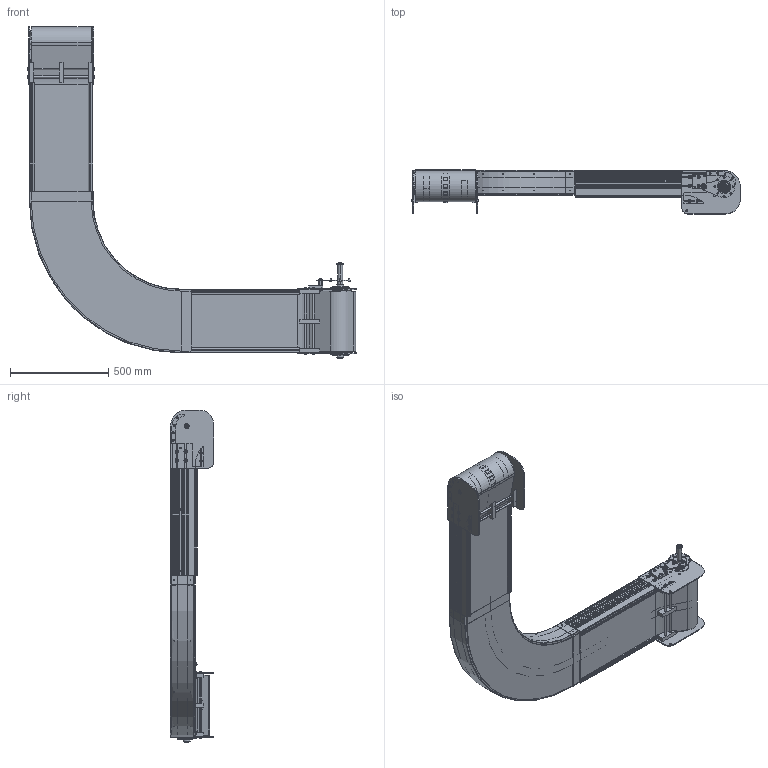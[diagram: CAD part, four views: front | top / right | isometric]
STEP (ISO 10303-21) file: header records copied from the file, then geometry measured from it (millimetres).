
FILE_DESCRIPTION (( 'STEP AP203' ), '1' );
FILE_NAME ('NASTRO_CATENA.step', '2026-04-20T10:51:47', ( 'Utente Windows' ), ( '' ), 'SwSTEP 2.0', 'SolidWorks 2024', '' );
FILE_SCHEMA (( 'CONFIG_CONTROL_DESIGN' ));
Length unit declared in the file: millimetre
Products named in the file (44): CATENA_LDX; 2000.1200.201-1; GRANI A PUNTA PIATTA UNI 5923 INOX_M8x20 UNI 5923 INOX; RONDELLE UNI 6592 INOX_6.4x12.5 UNI 6592 INOX; VITI TE UNI 5739 INOX_M6x12 UNI 5739 INOX; RUOTE DI TRAINO NS882_NS882T12R25; VITI TSEI UNI 5933 INOX_0820UNI5933A2; 2000.882.750; 2000.001.016; CHIAVETTE_A 8x7x70 UNI 6604-69; K1200_90°_S_P; K1200_DIR_49_P_DX_MOTORE A DESTRA; 2000.1200.104; VITI TCEI UNI 5931 INOX_M8x25 UNI 5931 INOX; K1200_TC_7_Default<A macchina>; 084.808.004; RONDELLE FASCIA LARGA UNI 6593 INOX_8.4x32 UNI 6593 INOX; NASTRO_CATENA; 2000.1200.492_MONTAGGIO; 2000.001.210; VITI TE UNI 5739 INOX_M6x20 UNI 5739 INOX; RONDELLE FASCIA LARGA UNI 6593 INOX_8.4x24 UNI 6593 INOX; K1200_TC_1_Default<A macchina>; SBPF 205; 2000.001.102-1; 2000.1200.404_2000.1200.404; RONDELLE UNI 6592 INOX_8.4x18 UNI 6592 INOX; VITI TSEI UNI 5933 INOX_0420UNI5933A2; 2000.1200.491_MONTAGGIO; VITI TCEI UNI 5931 INOX_M8x35 UNI 5931 INOX; K1200_R_P; 084.802.027; 2000.1200.103-1; 2000.001.211; 2000.001.015-1; VITI TSEI UNI 5933 INOX_0816UNI5933A2; 084.302.016; VITI TSEI UNI 5933 INOX_0825UNI5933A2; 084.302.000 DADI ALUSIC LUNGHI_084.302.016; 2000.001.014-1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
Assembly tree (146 placements, depth 3):
  NASTRO_CATENA
    K1200_TC_1_Default<A macchina>
    K1200_TC_7_Default<A macchina>
    K1200_DIR_49_P_DX_MOTORE A DESTRA
      2000.001.013
      2000.001.014-1  x2
      2000.001.015-1  x3
      084.802.027
      2000.1200.103-1
      084.808.004
      2000.001.102-1
      2000.1200.104  x2
      2000.001.016  x2
      2000.001.017
      SBPF 205  x2
      RUOTE DI TRAINO NS882_NS882T12R25
      CHIAVETTE_A 8x7x70 UNI 6604-69
      VITI TSEI UNI 5933 INOX_0816UNI5933A2  x6
      VITI TCEI UNI 5931 INOX_M8x25 UNI 5931 INOX  x2
      GRANI A PUNTA PIATTA UNI 5923 INOX_M8x20 UNI 5923 INOX
      RONDELLE FASCIA LARGA UNI 6593 INOX_8.4x24 UNI 6593 INOX
      RONDELLE UNI 6592 INOX_8.4x18 UNI 6592 INOX  x6
      VITI TSEI UNI 5933 INOX_0420UNI5933A2  x8
      RONDELLE UNI 6592 INOX_6.4x12.5 UNI 6592 INOX  x4
      VITI TE UNI 5739 INOX_M6x20 UNI 5739 INOX  x4
      RONDELLE FASCIA LARGA UNI 6593 INOX_8.4x32 UNI 6593 INOX
      VITI TE UNI 5739 INOX_M8x20 UNI 5739 INOX  x8
      VITI TE UNI 5739 INOX_M6x12 UNI 5739 INOX  x4
      084.302.016  x4
    K1200_90°_S_P
      2000.1200.404_2000.1200.404  x2
      2000.001.401_Default<Lavorato>  x8
      2000.1200.491_MONTAGGIO
      2000.1200.492_MONTAGGIO
      VITI TCEI UNI 5931 INOX_M8x35 UNI 5931 INOX  x16
    K1200_R_P
      2000.001.014-1  x2
      2000.1200.201-1
      2000.1200.104  x2
      2000.001.210
      2000.001.211
      2000.001.016  x2
      2000.001.015-1  x3
      RUOTE DI TRAINO NS882_NS882T12R25
      VITI TSEI UNI 5933 INOX_0420UNI5933A2  x8
      RONDELLE UNI 6592 INOX_6.4x12.5 UNI 6592 INOX  x4
      VITI TE UNI 5739 INOX_M6x20 UNI 5739 INOX  x4
      VITI TSEI UNI 5933 INOX_0825UNI5933A2  x2
      084.302.000 DADI ALUSIC LUNGHI_084.302.016  x4
      VITI TSEI UNI 5933 INOX_0820UNI5933A2  x8
    CATENA_LDX
    2000.882.750
Bounding box: 1670.1 x 220.83 x 1687 mm (x, y, z)
Volume: 40437050.5 mm3; surface area: 10860071.9 mm2
Topology: 166 solids, 169 shells, 5609 faces, 14565 edges, 9363 vertices
Faces by surface type: plane 2928, cylinder 2050, cone 466, torus 100, bspline 45, sphere 20
Entity records: 118241 total; most frequent: CARTESIAN_POINT 26652, DIRECTION 17679, ORIENTED_EDGE 17596, EDGE_CURVE 8807, AXIS2_PLACEMENT_3D 6097, VERTEX_POINT 5673, LINE 5485, VECTOR 5485
